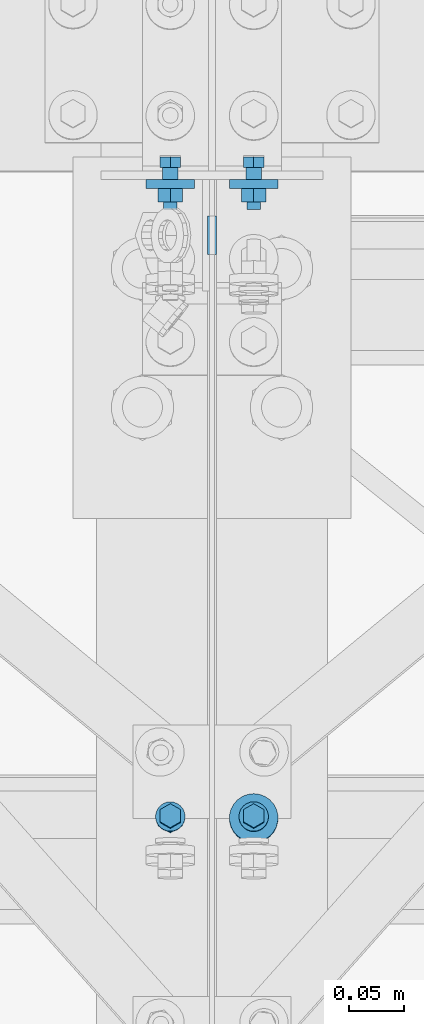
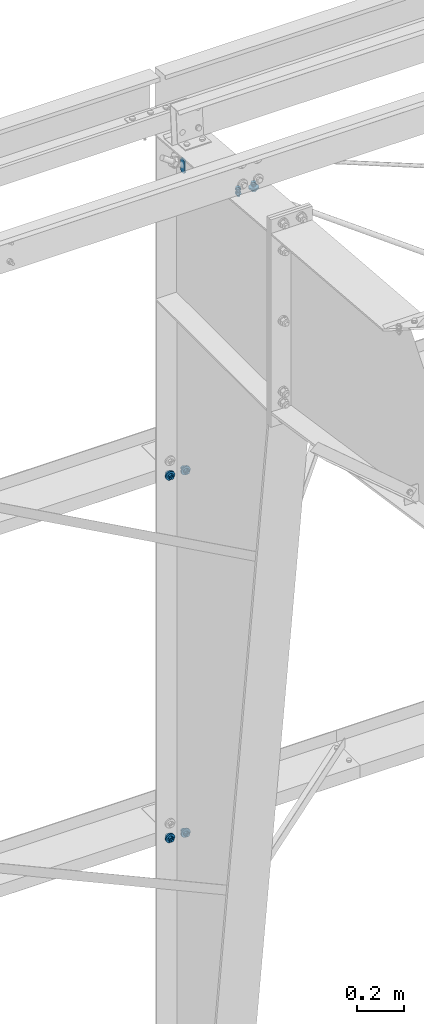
# One storey, part 153 of 185: 7 mechanical fasteners, 4 elements without a shape of their own.
"""IFC2X3 building model written with IfcOpenShell, lengths in millimetres."""

from ifc_helpers import new_model, si_unit, frame, frame_2d, origin_with_axes, origin_2d_with_axis, place, context, subcontext, project, spatial, polyline, circle_curve, parameter, trimmed, segment, composite_curve, circle, outline, extrude, source, transform, mapped, material, type_object, element, aggregate, save


model = new_model("IFC2X3")

# Units and contexts
model_context = context("Model", 3, precision=1e-05, world=origin_with_axes())
body_context = subcontext(model_context, "Body", "Model", "MODEL_VIEW")
ifc_project = project(units=[si_unit("LENGTHUNIT", "METRE", prefix="MILLI"), si_unit("AREAUNIT", "SQUARE_METRE"), si_unit("VOLUMEUNIT", "CUBIC_METRE"), si_unit("MASSUNIT", "GRAM", prefix="KILO"), si_unit("TIMEUNIT", "SECOND"), si_unit("PLANEANGLEUNIT", "RADIAN"), si_unit("SOLIDANGLEUNIT", "STERADIAN"), si_unit("THERMODYNAMICTEMPERATUREUNIT", "DEGREE_CELSIUS"), si_unit("LUMINOUSINTENSITYUNIT", "LUMEN")], contexts=[model_context])

# Site, building, storey
site_placement = place(None, origin_with_axes())
site = spatial("IfcSite", under=ifc_project, at=site_placement, Name="Undefined", CompositionType="ELEMENT")
building_placement = place(site_placement, origin_with_axes())
building = spatial("IfcBuilding", under=site, at=building_placement, Name="Undefined", CompositionType="ELEMENT")
storey_placement = place(building_placement, origin_with_axes())
storey = spatial("IfcBuildingStorey", under=building, at=storey_placement, Name="Undefined", CompositionType="ELEMENT", Elevation=0.0)

# Assembly, mechanical fasteners
assembly_1_placement = place(storey_placement, origin_with_axes())
assembly_1 = element("IfcElementAssembly", 1, at=assembly_1_placement, inside=storey, Name="Steel Assembly", AssemblyPlace="NOTDEFINED", PredefinedType="RIGID_FRAME")
ifc_material = material(Name="Undefined")
discrete_accessory_type = type_object("IfcDiscreteAccessoryType", Name="Bolt assembly")
shared_shape_1 = source(origin_with_axes(), body_context, "Body", "SweptSolid", [
    extrude(circle(Radius=7.14374971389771, at=origin_2d_with_axis()), frame((0.0, -3.08000006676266, 0.0), z_axis=(0.0, 1.0, 0.0), x_axis=(1.0, 0.0, 0.0)), (0.0, 0.0, 1.0), 3.2),
    extrude(circle(Radius=7.14374971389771, at=origin_2d_with_axis()), frame((0.0, -3.08000006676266, 0.0), z_axis=(0.0, 1.0, 0.0), x_axis=(1.0, 0.0, 0.0)), (0.0, 0.0, 1.0), 3.2),
    extrude(circle(Radius=7.14374971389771, at=origin_2d_with_axis()), frame((0.0, -0.1, 0.0), z_axis=(0.0, 1.0, 0.0), x_axis=(1.0, 0.0, 0.0)), (0.0, 0.0, 1.0), 8.0),
    extrude(outline(polyline([(10.9985221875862, 0.0), (5.4992610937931, 9.52499961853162), (-5.4992610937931, 9.52499961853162), (-10.9985221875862, 0.0), (-5.4992610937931, -9.52499961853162), (5.4992610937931, -9.52499961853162), (10.9985221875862, 0.0)])), frame((0.0, -12.7050014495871, 0.0), z_axis=(0.0, 1.0, 0.0), x_axis=(1.0, 0.0, 0.0)), (0.0, 0.0, 1.0), 9.5),
    extrude(circle(Radius=6.34999990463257, at=origin_2d_with_axis()), frame((0.0, -3.18000030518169, 0.0), z_axis=(0.0, 1.0, 0.0), x_axis=(1.0, 0.0, 0.0)), (0.0, 0.0, 1.0), 38.1),
    extrude(circle(Radius=22.2250003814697, at=origin_2d_with_axis()), frame((0.0, 7.87399999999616, 0.0), z_axis=(0.0, 1.0, 0.0), x_axis=(1.0, 0.0, 0.0)), (0.0, 0.0, 1.0), 7.9),
    extrude(outline(polyline([(12.8316099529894, 0.0), (6.4158049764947, 11.1125001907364), (-6.4158049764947, 11.1125001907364), (-12.8316099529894, 0.0), (-6.4158049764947, -11.1125001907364), (6.4158049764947, -11.1125001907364), (12.8316099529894, 0.0)])), frame((0.0, 15.8114999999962, 0.0), z_axis=(0.0, 1.0, 0.0), x_axis=(1.0, 0.0, 0.0)), (0.0, 0.0, 1.0), 12.3),
])
mechanical_fastener_1_placement = place(assembly_1_placement, frame((7200.9, 31800.8, 2247.9), z_axis=(-1.0, 0.0, 0.0), x_axis=(0.0, 0.0, -1.0)))
mechanical_fastener_1 = element("IfcMechanicalFastener", 2, at=mechanical_fastener_1_placement, type_object=discrete_accessory_type, material=ifc_material, Name="Bolt assembly", NominalDiameter=12.6999998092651, NominalLength=38.0999984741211, context=body_context, shape_type="MappedRepresentation", body=[
    mapped(shared_shape_1, transform((0.0, 0.0, 0.0))),
])
mechanical_fastener_2_placement = place(assembly_1_placement, frame((7277.1, 31800.8, 2247.9), z_axis=(-1.0, 0.0, 0.0), x_axis=(0.0, 0.0, -1.0)))
mechanical_fastener_2 = element("IfcMechanicalFastener", 3, at=mechanical_fastener_2_placement, type_object=discrete_accessory_type, material=ifc_material, Name="Bolt assembly", NominalDiameter=12.6999998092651, NominalLength=38.0999984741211, context=body_context, shape_type="MappedRepresentation", body=[
    mapped(shared_shape_1, transform((0.0, 0.0, 0.0))),
])
aggregate(assembly_1, [mechanical_fastener_1, mechanical_fastener_2])

assembly_2_placement = place(storey_placement, origin_with_axes())
assembly_2 = element("IfcElementAssembly", 4, at=assembly_2_placement, inside=storey, Name="Steel Assembly", AssemblyPlace="NOTDEFINED", PredefinedType="RIGID_FRAME")
mechanical_fastener_3_placement = place(assembly_2_placement, frame((7200.9, 31800.8, 4127.5), z_axis=(-1.0, 0.0, 0.0), x_axis=(0.0, 0.0, -1.0)))
mechanical_fastener_3 = element("IfcMechanicalFastener", 5, at=mechanical_fastener_3_placement, type_object=discrete_accessory_type, material=ifc_material, Name="Bolt assembly", NominalDiameter=12.6999998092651, NominalLength=38.0999984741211, context=body_context, shape_type="MappedRepresentation", body=[
    mapped(shared_shape_1, transform((0.0, 0.0, 0.0))),
])
mechanical_fastener_4_placement = place(assembly_2_placement, frame((7277.1, 31800.8, 4127.5), z_axis=(-1.0, 0.0, 0.0), x_axis=(0.0, 0.0, -1.0)))
mechanical_fastener_4 = element("IfcMechanicalFastener", 6, at=mechanical_fastener_4_placement, type_object=discrete_accessory_type, material=ifc_material, Name="Bolt assembly", NominalDiameter=12.6999998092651, NominalLength=38.0999984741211, context=body_context, shape_type="MappedRepresentation", body=[
    mapped(shared_shape_1, transform((0.0, 0.0, 0.0))),
])
aggregate(assembly_2, [mechanical_fastener_3, mechanical_fastener_4])

# Assembly, mechanical fastener
assembly_3_placement = place(storey_placement, origin_with_axes())
assembly_3 = element("IfcElementAssembly", 7, at=assembly_3_placement, inside=storey, Name="Steel Assembly", AssemblyPlace="NOTDEFINED", PredefinedType="RIGID_FRAME")
shared_shape_2 = source(origin_with_axes(), body_context, "Body", "SweptSolid", [
    extrude(outline(composite_curve([segment(polyline([(-23.8125, 17.4624996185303), (23.8125, 17.4624996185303)]), True, "CONTINUOUS"), segment(trimmed(circle_curve(frame_2d((23.8125, 4.76249980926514), x_axis=(0.0, 1.0)), 12.7), [parameter(0.0)], [parameter(4.71238898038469)], False, "PARAMETER"), True, "CONTINUOUS"), segment(polyline([(36.5124998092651, 4.76249980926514), (36.5124998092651, -4.76249980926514)]), True, "CONTINUOUS"), segment(trimmed(circle_curve(frame_2d((23.8125, -4.76249980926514), x_axis=(1.0, 0.0)), 12.7), [parameter(0.0)], [parameter(4.71238898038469)], False, "PARAMETER"), True, "CONTINUOUS"), segment(polyline([(23.8125, -17.4624996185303), (-23.8125, -17.4624996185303)]), True, "CONTINUOUS"), segment(trimmed(circle_curve(frame_2d((-23.8125, -4.76249980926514), x_axis=(0.0, -1.0)), 12.7), [parameter(0.0)], [parameter(4.71238898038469)], False, "PARAMETER"), True, "CONTINUOUS"), segment(polyline([(-36.5124998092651, -4.76249980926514), (-36.5124998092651, 4.76249980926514)]), True, "CONTINUOUS"), segment(trimmed(circle_curve(frame_2d((-23.8125, 4.76249980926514), x_axis=(-1.0, 0.0)), 12.7), [parameter(0.0)], [parameter(4.71238898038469)], False, "PARAMETER"), True, "DISCONTINUOUS")], self_intersect=False)), frame((0.0, -3.96874999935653, 0.0), z_axis=(0.0, 1.0, 0.0), x_axis=(1.0, 0.0, 0.0)), (0.0, 0.0, 1.0), 8.0),
])
mechanical_fastener_5_placement = place(assembly_3_placement, frame((7239.0, 31742.1260000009, 5749.62739331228), z_axis=(0.0, 1.0, 0.0), x_axis=(0.0, 0.0, -1.0)))
mechanical_fastener_5 = element("IfcMechanicalFastener", 8, at=mechanical_fastener_5_placement, type_object=discrete_accessory_type, material=ifc_material, Name="Bolt assembly", NominalDiameter=25.3999996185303, NominalLength=31.75, context=body_context, shape_type="MappedRepresentation", body=[
    mapped(shared_shape_2, transform((0.0, 0.0, 0.0))),
])
aggregate(assembly_3, [mechanical_fastener_5])

# Assembly, mechanical fasteners
assembly_4_placement = place(storey_placement, origin_with_axes())
assembly_4 = element("IfcElementAssembly", 9, at=assembly_4_placement, inside=storey, Name="Steel Assembly", AssemblyPlace="NOTDEFINED", PredefinedType="RIGID_FRAME")
shared_shape_3 = source(origin_with_axes(), body_context, "Body", "SweptSolid", [
    extrude(circle(Radius=7.14374971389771, at=origin_2d_with_axis()), frame((0.0, -0.1, 0.0), z_axis=(0.0, 1.0, 0.0), x_axis=(1.0, 0.0, 0.0)), (0.0, 0.0, 1.0), 8.1),
    extrude(circle(Radius=7.14374971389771, at=origin_2d_with_axis()), frame((0.0, -3.08000006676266, 0.0), z_axis=(0.0, 1.0, 0.0), x_axis=(1.0, 0.0, 0.0)), (0.0, 0.0, 1.0), 3.2),
    extrude(circle(Radius=7.14374971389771, at=origin_2d_with_axis()), frame((0.0, -3.08000006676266, 0.0), z_axis=(0.0, 1.0, 0.0), x_axis=(1.0, 0.0, 0.0)), (0.0, 0.0, 1.0), 3.2),
    extrude(outline(polyline([(10.9985221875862, 0.0), (5.4992610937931, 9.52499961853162), (-5.4992610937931, 9.52499961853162), (-10.9985221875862, 0.0), (-5.4992610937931, -9.52499961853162), (5.4992610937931, -9.52499961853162), (10.9985221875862, 0.0)])), frame((0.0, -16.6737496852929, 0.0), z_axis=(0.0, 1.0, 0.0), x_axis=(1.0, 0.0, 0.0)), (0.0, 0.0, 1.0), 9.5),
    extrude(circle(Radius=6.34999990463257, at=origin_2d_with_axis()), frame((0.0, -7.14875006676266, 0.0), z_axis=(0.0, 1.0, 0.0), x_axis=(1.0, 0.0, 0.0)), (0.0, 0.0, 1.0), 38.1),
    extrude(circle(Radius=13.4937496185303, at=origin_2d_with_axis()), frame((0.0, -7.14875006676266, 0.0), z_axis=(0.0, 1.0, 0.0), x_axis=(1.0, 0.0, 0.0)), (0.0, 0.0, 1.0), 4.0),
    extrude(circle(Radius=22.2250003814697, at=origin_2d_with_axis()), frame((0.0, 7.95019856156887, 0.0), z_axis=(0.0, 1.0, 0.0), x_axis=(1.0, 0.0, 0.0)), (0.0, 0.0, 1.0), 7.9),
    extrude(outline(polyline([(12.8316099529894, 0.0), (6.4158049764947, 11.1125001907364), (-6.4158049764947, 11.1125001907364), (-12.8316099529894, 0.0), (-6.4158049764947, -11.1125001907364), (6.4158049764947, -11.1125001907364), (12.8316099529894, 0.0)])), frame((0.0, 15.8876985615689, 0.0), z_axis=(0.0, 1.0, 0.0), x_axis=(1.0, 0.0, 0.0)), (0.0, 0.0, 1.0), 12.3),
])
mechanical_fastener_6_placement = place(assembly_4_placement, frame((7277.1, 31210.4504829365, 5958.22479169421), z_axis=(-1.0, 0.0, 0.0), x_axis=(0.0, 0.996545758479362, -0.0830454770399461)))
mechanical_fastener_6 = element("IfcMechanicalFastener", 10, at=mechanical_fastener_6_placement, type_object=discrete_accessory_type, material=ifc_material, Name="Bolt assembly", NominalDiameter=12.6999998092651, NominalLength=38.0999984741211, context=body_context, shape_type="MappedRepresentation", body=[
    mapped(shared_shape_3, transform((0.0, 0.0, 0.0))),
])
shared_shape_4 = source(origin_with_axes(), body_context, "Body", "SweptSolid", [
    extrude(circle(Radius=7.14374971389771, at=origin_2d_with_axis()), frame((0.0, -0.1, 0.0), z_axis=(0.0, 1.0, 0.0), x_axis=(1.0, 0.0, 0.0)), (0.0, 0.0, 1.0), 8.1),
    extrude(circle(Radius=7.14374971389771, at=origin_2d_with_axis()), frame((0.0, -3.08000006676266, 0.0), z_axis=(0.0, 1.0, 0.0), x_axis=(1.0, 0.0, 0.0)), (0.0, 0.0, 1.0), 3.2),
    extrude(circle(Radius=7.14374971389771, at=origin_2d_with_axis()), frame((0.0, -3.08000006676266, 0.0), z_axis=(0.0, 1.0, 0.0), x_axis=(1.0, 0.0, 0.0)), (0.0, 0.0, 1.0), 3.2),
    extrude(outline(polyline([(10.9985221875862, 0.0), (5.4992610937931, 9.52499961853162), (-5.4992610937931, 9.52499961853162), (-10.9985221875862, 0.0), (-5.4992610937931, -9.52499961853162), (5.4992610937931, -9.52499961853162), (10.9985221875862, 0.0)])), frame((0.0, -16.6737496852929, 0.0), z_axis=(0.0, 1.0, 0.0), x_axis=(1.0, 0.0, 0.0)), (0.0, 0.0, 1.0), 9.5),
    extrude(circle(Radius=6.34999990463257, at=origin_2d_with_axis()), frame((0.0, -7.14875006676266, 0.0), z_axis=(0.0, 1.0, 0.0), x_axis=(1.0, 0.0, 0.0)), (0.0, 0.0, 1.0), 38.1),
    extrude(circle(Radius=13.4937496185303, at=origin_2d_with_axis()), frame((0.0, -7.14875006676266, 0.0), z_axis=(0.0, 1.0, 0.0), x_axis=(1.0, 0.0, 0.0)), (0.0, 0.0, 1.0), 4.0),
    extrude(outline(polyline([(12.8316099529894, 0.0), (6.4158049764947, 11.1125001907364), (-6.4158049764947, 11.1125001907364), (-12.8316099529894, 0.0), (-6.4158049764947, -11.1125001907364), (6.4158049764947, -11.1125001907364), (12.8316099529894, 0.0)])), frame((0.0, 7.95019856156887, 0.0), z_axis=(0.0, 1.0, 0.0), x_axis=(1.0, 0.0, 0.0)), (0.0, 0.0, 1.0), 12.3),
])
mechanical_fastener_7_placement = place(assembly_4_placement, frame((7200.9, 31210.4504829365, 5958.22479169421), z_axis=(-1.0, 0.0, 0.0), x_axis=(0.0, 0.996545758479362, -0.0830454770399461)))
mechanical_fastener_7 = element("IfcMechanicalFastener", 11, at=mechanical_fastener_7_placement, type_object=discrete_accessory_type, material=ifc_material, Name="Bolt assembly", NominalDiameter=12.6999998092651, NominalLength=38.0999984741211, context=body_context, shape_type="MappedRepresentation", body=[
    mapped(shared_shape_4, transform((0.0, 0.0, 0.0))),
])
aggregate(assembly_4, [mechanical_fastener_6, mechanical_fastener_7])

save(model, "model.ifc")
